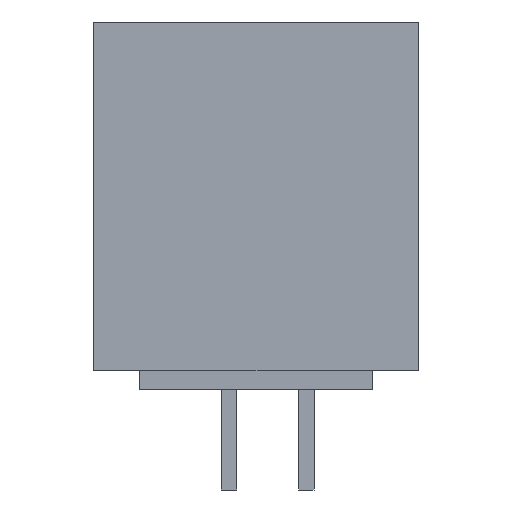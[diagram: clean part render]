
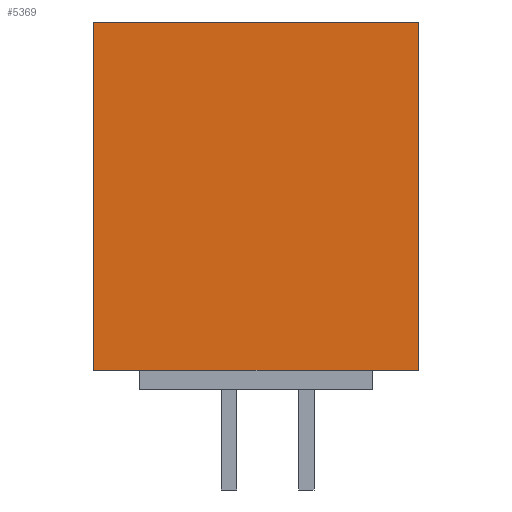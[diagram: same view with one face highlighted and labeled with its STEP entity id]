
A CAD part, left-side view. The second image highlights one B-rep face of the part: STEP entity #5369.
In plain terms, the highlighted planar face has unit normal (-1, 0, 0).
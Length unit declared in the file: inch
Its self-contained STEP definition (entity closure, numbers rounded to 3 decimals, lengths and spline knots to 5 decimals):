
#389=DIRECTION('',(0.,-1.,0.));
#390=VECTOR('',#389,0.42);
#391=CARTESIAN_POINT('',(-0.406,0.21,-0.225));
#392=LINE('',#391,#390);
#1641=DIRECTION('',(0.,0.,1.));
#1642=VECTOR('',#1641,0.45);
#1643=CARTESIAN_POINT('',(-0.406,-0.21,-0.225));
#1644=LINE('',#1643,#1642);
#1673=DIRECTION('',(0.,-1.,0.));
#1674=VECTOR('',#1673,0.42);
#1675=CARTESIAN_POINT('',(-0.406,0.21,0.225));
#1676=LINE('',#1675,#1674);
#1701=DIRECTION('',(0.,0.,1.));
#1702=VECTOR('',#1701,0.45);
#1703=CARTESIAN_POINT('',(-0.406,0.21,-0.225));
#1704=LINE('',#1703,#1702);
#2061=CARTESIAN_POINT('',(-0.406,0.21,-0.225));
#2062=CARTESIAN_POINT('',(-0.406,-0.21,-0.225));
#2063=VERTEX_POINT('',#2061);
#2064=VERTEX_POINT('',#2062);
#2069=CARTESIAN_POINT('',(-0.406,0.21,0.225));
#2070=CARTESIAN_POINT('',(-0.406,-0.21,0.225));
#2071=VERTEX_POINT('',#2069);
#2072=VERTEX_POINT('',#2070);
#5357=CARTESIAN_POINT('',(-0.406,0.21,-0.225));
#5358=DIRECTION('',(-1.,0.,0.));
#5359=DIRECTION('',(0.,-1.,0.));
#5360=AXIS2_PLACEMENT_3D('',#5357,#5358,#5359);
#5361=PLANE('',#5360);
#5362=ORIENTED_EDGE('',*,*,#2768,.F.);
#5364=ORIENTED_EDGE('',*,*,#5363,.T.);
#5365=ORIENTED_EDGE('',*,*,#5330,.T.);
#5366=ORIENTED_EDGE('',*,*,#5235,.F.);
#5367=EDGE_LOOP('',(#5362,#5364,#5365,#5366));
#5368=FACE_OUTER_BOUND('',#5367,.F.);
#5369=ADVANCED_FACE('',(#5368),#5361,.T.);
#2768=EDGE_CURVE('',#2063,#2064,#392,.T.);
#5235=EDGE_CURVE('',#2064,#2072,#1644,.T.);
#5330=EDGE_CURVE('',#2071,#2072,#1676,.T.);
#5363=EDGE_CURVE('',#2063,#2071,#1704,.T.);
